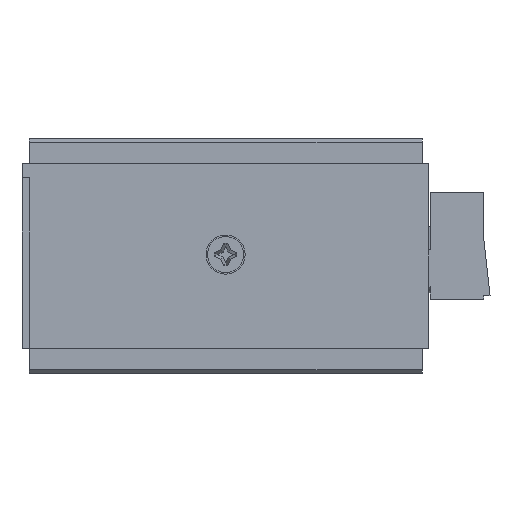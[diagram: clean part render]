
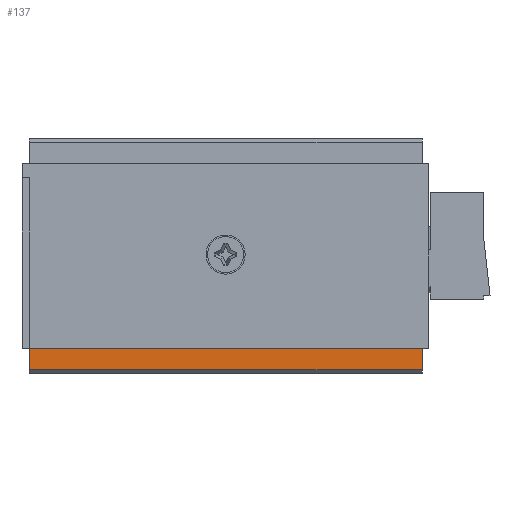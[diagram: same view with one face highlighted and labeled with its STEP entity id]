
A CAD part, left-side view. The second image highlights one B-rep face of the part: STEP entity #137.
In plain terms, the highlighted planar face has unit normal (-1, 0, 0).
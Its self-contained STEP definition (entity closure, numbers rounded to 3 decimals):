
#21 = EDGE_CURVE('',#22,#24,#26,.T.);
#22 = VERTEX_POINT('',#23);
#23 = CARTESIAN_POINT('',(-1.,56.2,-3.));
#24 = VERTEX_POINT('',#25);
#25 = CARTESIAN_POINT('',(-1.,0.94,-3.));
#26 = SURFACE_CURVE('',#27,(#31,#43),.PCURVE_S1.);
#27 = LINE('',#28,#29);
#28 = CARTESIAN_POINT('',(-1.,56.2,-3.));
#29 = VECTOR('',#30,1.);
#30 = DIRECTION('',(0.,-1.,0.));
#31 = PCURVE('',#32,#37);
#32 = PLANE('',#33);
#33 = AXIS2_PLACEMENT_3D('',#34,#35,#36);
#34 = CARTESIAN_POINT('',(-1.,56.2,-3.));
#35 = DIRECTION('',(0.445,0.,0.895));
#36 = DIRECTION('',(0.895,0.,-0.445)
  );
#37 = DEFINITIONAL_REPRESENTATION('',(#38),#42);
#38 = LINE('',#39,#40);
#39 = CARTESIAN_POINT('',(0.,0.));
#40 = VECTOR('',#41,1.);
#41 = DIRECTION('',(0.,-1.));
#42 = ( GEOMETRIC_REPRESENTATION_CONTEXT(2) 
PARAMETRIC_REPRESENTATION_CONTEXT() REPRESENTATION_CONTEXT('2D SPACE',''
  ) );
#43 = PCURVE('',#44,#49);
#44 = PLANE('',#45);
#45 = AXIS2_PLACEMENT_3D('',#46,#47,#48);
#46 = CARTESIAN_POINT('',(-1.,56.2,0.));
#47 = DIRECTION('',(1.,0.,0.));
#48 = DIRECTION('',(0.,0.,-1.));
#49 = DEFINITIONAL_REPRESENTATION('',(#50),#54);
#50 = LINE('',#51,#52);
#51 = CARTESIAN_POINT('',(3.,0.));
#52 = VECTOR('',#53,1.);
#53 = DIRECTION('',(0.,-1.));
#54 = ( GEOMETRIC_REPRESENTATION_CONTEXT(2) 
PARAMETRIC_REPRESENTATION_CONTEXT() REPRESENTATION_CONTEXT('2D SPACE',''
  ) );
#72 = PLANE('',#73);
#73 = AXIS2_PLACEMENT_3D('',#74,#75,#76);
#74 = CARTESIAN_POINT('',(46.235,0.94,-1.708));
#75 = DIRECTION('',(0.,-1.,0.));
#76 = DIRECTION('',(1.,0.,0.));
#126 = PLANE('',#127);
#127 = AXIS2_PLACEMENT_3D('',#128,#129,#130);
#128 = CARTESIAN_POINT('',(50.255,56.2,-3.5));
#129 = DIRECTION('',(0.,1.,0.));
#130 = DIRECTION('',(0.,0.,-1.));
#137 = ADVANCED_FACE('',(#138),#44,.F.);
#138 = FACE_BOUND('',#139,.F.);
#139 = EDGE_LOOP('',(#140,#170,#191,#192));
#140 = ORIENTED_EDGE('',*,*,#141,.T.);
#141 = EDGE_CURVE('',#142,#144,#146,.T.);
#142 = VERTEX_POINT('',#143);
#143 = CARTESIAN_POINT('',(-1.,56.2,0.));
#144 = VERTEX_POINT('',#145);
#145 = CARTESIAN_POINT('',(-1.,0.94,0.));
#146 = SURFACE_CURVE('',#147,(#151,#158),.PCURVE_S1.);
#147 = LINE('',#148,#149);
#148 = CARTESIAN_POINT('',(-1.,56.2,0.));
#149 = VECTOR('',#150,1.);
#150 = DIRECTION('',(0.,-1.,0.));
#151 = PCURVE('',#44,#152);
#152 = DEFINITIONAL_REPRESENTATION('',(#153),#157);
#153 = LINE('',#154,#155);
#154 = CARTESIAN_POINT('',(0.,0.));
#155 = VECTOR('',#156,1.);
#156 = DIRECTION('',(0.,-1.));
#157 = ( GEOMETRIC_REPRESENTATION_CONTEXT(2) 
PARAMETRIC_REPRESENTATION_CONTEXT() REPRESENTATION_CONTEXT('2D SPACE',''
  ) );
#158 = PCURVE('',#159,#164);
#159 = PLANE('',#160);
#160 = AXIS2_PLACEMENT_3D('',#161,#162,#163);
#161 = CARTESIAN_POINT('',(-10.9,0.,0.));
#162 = DIRECTION('',(0.,0.,1.));
#163 = DIRECTION('',(1.,0.,0.));
#164 = DEFINITIONAL_REPRESENTATION('',(#165),#169);
#165 = LINE('',#166,#167);
#166 = CARTESIAN_POINT('',(9.9,56.2));
#167 = VECTOR('',#168,1.);
#168 = DIRECTION('',(0.,-1.));
#169 = ( GEOMETRIC_REPRESENTATION_CONTEXT(2) 
PARAMETRIC_REPRESENTATION_CONTEXT() REPRESENTATION_CONTEXT('2D SPACE',''
  ) );
#170 = ORIENTED_EDGE('',*,*,#171,.T.);
#171 = EDGE_CURVE('',#144,#24,#172,.T.);
#172 = SURFACE_CURVE('',#173,(#177,#184),.PCURVE_S1.);
#173 = LINE('',#174,#175);
#174 = CARTESIAN_POINT('',(-1.,0.94,0.));
#175 = VECTOR('',#176,1.);
#176 = DIRECTION('',(0.,0.,-1.));
#177 = PCURVE('',#44,#178);
#178 = DEFINITIONAL_REPRESENTATION('',(#179),#183);
#179 = LINE('',#180,#181);
#180 = CARTESIAN_POINT('',(0.,-55.26));
#181 = VECTOR('',#182,1.);
#182 = DIRECTION('',(1.,0.));
#183 = ( GEOMETRIC_REPRESENTATION_CONTEXT(2) 
PARAMETRIC_REPRESENTATION_CONTEXT() REPRESENTATION_CONTEXT('2D SPACE',''
  ) );
#184 = PCURVE('',#72,#185);
#185 = DEFINITIONAL_REPRESENTATION('',(#186),#190);
#186 = LINE('',#187,#188);
#187 = CARTESIAN_POINT('',(-47.235,1.708));
#188 = VECTOR('',#189,1.);
#189 = DIRECTION('',(0.,-1.));
#190 = ( GEOMETRIC_REPRESENTATION_CONTEXT(2) 
PARAMETRIC_REPRESENTATION_CONTEXT() REPRESENTATION_CONTEXT('2D SPACE',''
  ) );
#191 = ORIENTED_EDGE('',*,*,#21,.F.);
#192 = ORIENTED_EDGE('',*,*,#193,.F.);
#193 = EDGE_CURVE('',#142,#22,#194,.T.);
#194 = SURFACE_CURVE('',#195,(#199,#206),.PCURVE_S1.);
#195 = LINE('',#196,#197);
#196 = CARTESIAN_POINT('',(-1.,56.2,0.));
#197 = VECTOR('',#198,1.);
#198 = DIRECTION('',(0.,0.,-1.));
#199 = PCURVE('',#44,#200);
#200 = DEFINITIONAL_REPRESENTATION('',(#201),#205);
#201 = LINE('',#202,#203);
#202 = CARTESIAN_POINT('',(0.,0.));
#203 = VECTOR('',#204,1.);
#204 = DIRECTION('',(1.,0.));
#205 = ( GEOMETRIC_REPRESENTATION_CONTEXT(2) 
PARAMETRIC_REPRESENTATION_CONTEXT() REPRESENTATION_CONTEXT('2D SPACE',''
  ) );
#206 = PCURVE('',#126,#207);
#207 = DEFINITIONAL_REPRESENTATION('',(#208),#212);
#208 = LINE('',#209,#210);
#209 = CARTESIAN_POINT('',(-3.5,51.255));
#210 = VECTOR('',#211,1.);
#211 = DIRECTION('',(1.,0.));
#212 = ( GEOMETRIC_REPRESENTATION_CONTEXT(2) 
PARAMETRIC_REPRESENTATION_CONTEXT() REPRESENTATION_CONTEXT('2D SPACE',''
  ) );
